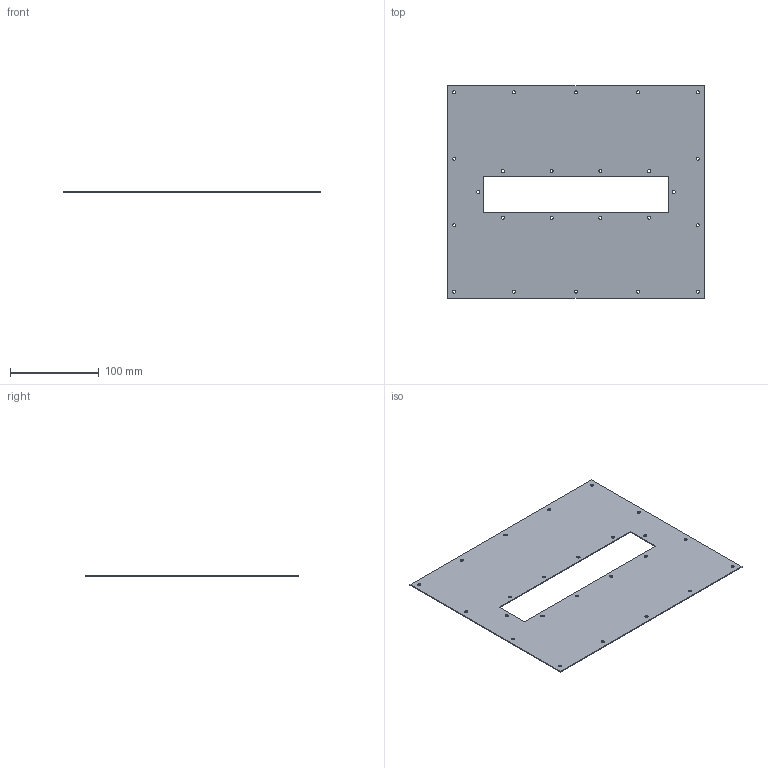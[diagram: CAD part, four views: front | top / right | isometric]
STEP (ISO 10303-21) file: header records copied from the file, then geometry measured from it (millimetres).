
FILE_DESCRIPTION((''),'2;1');
FILE_NAME('OCP3-FIXTURE-ADPT-PLT-DSFF','2025-03-17T15:47:31',('Jon_Lewis'),('Dell Technologies'),'CREO PARAMETRIC BY PTC INC, 2023294','CREO PARAMETRIC BY PTC INC, 2023294','');
FILE_SCHEMA(('AUTOMOTIVE_DESIGN { 1 0 10303 214 1 1 1 1 }'));
Length unit declared in the file: millimetre
Products named in the file (1): OCP3-FIXTURE-ADPT-PLT-DSFF
Bounding box: 290 x 240 x 1 mm (x, y, z)
Volume: 60879.3 mm3; surface area: 123582.1 mm2
Topology: 1 solids, 1 shells, 58 faces, 168 edges, 136 vertices
Faces by surface type: cylinder 48, plane 10
Entity records: 3741 total; most frequent: DIRECTION 520, CARTESIAN_POINT 467, ORIENTED_EDGE 336, AXIS2_PLACEMENT_3D 199, PRESENTATION_STYLE_ASSIGNMENT 196, STYLED_ITEM 196, CURVE_STYLE 195, EDGE_CURVE 168
